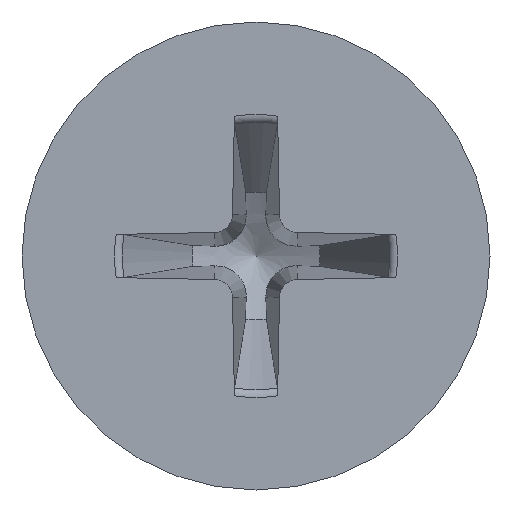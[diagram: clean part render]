
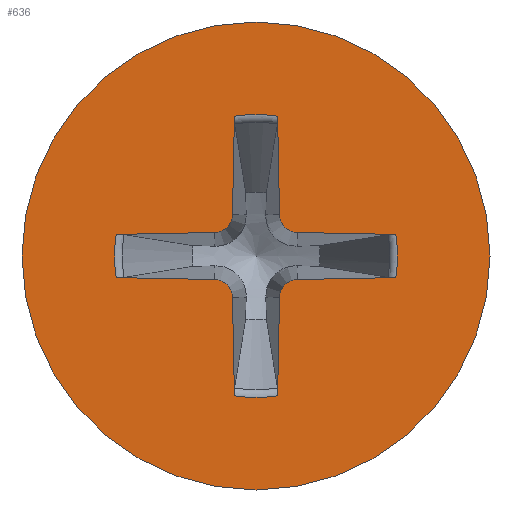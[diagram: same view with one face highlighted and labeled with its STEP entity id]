
A CAD part, left-side view. The second image highlights one B-rep face of the part: STEP entity #636.
In plain terms, the highlighted planar face has unit normal (-1, 0, 0).
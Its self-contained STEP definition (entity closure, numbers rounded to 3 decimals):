
#98=FACE_BOUND('',#193,.T.);
#133=PLANE('',#710);
#162=FACE_OUTER_BOUND('',#192,.T.);
#192=EDGE_LOOP('',(#563));
#193=EDGE_LOOP('',(#564,#565,#566,#567,#568,#569,#570,#571,#572,#573,#574,
#575,#576,#577,#578,#579));
#215=LINE('',#1127,#246);
#216=LINE('',#1132,#247);
#217=LINE('',#1137,#248);
#218=LINE('',#1142,#249);
#220=LINE('',#1163,#251);
#221=LINE('',#1168,#252);
#222=LINE('',#1173,#253);
#223=LINE('',#1178,#254);
#246=VECTOR('',#826,10.);
#247=VECTOR('',#829,10.);
#248=VECTOR('',#832,10.);
#249=VECTOR('',#835,10.);
#251=VECTOR('',#843,10.);
#252=VECTOR('',#846,10.);
#253=VECTOR('',#849,10.);
#254=VECTOR('',#852,10.);
#265=CIRCLE('',#670,1.663);
#268=CIRCLE('',#675,1.663);
#272=CIRCLE('',#681,1.663);
#275=CIRCLE('',#686,1.663);
#277=CIRCLE('',#690,0.215);
#278=CIRCLE('',#692,0.215);
#279=CIRCLE('',#694,0.215);
#280=CIRCLE('',#700,0.215);
#284=CIRCLE('',#711,2.75);
#310=VERTEX_POINT('',#937);
#313=VERTEX_POINT('',#949);
#316=VERTEX_POINT('',#966);
#319=VERTEX_POINT('',#978);
#323=VERTEX_POINT('',#997);
#326=VERTEX_POINT('',#1009);
#329=VERTEX_POINT('',#1026);
#332=VERTEX_POINT('',#1038);
#337=VERTEX_POINT('',#1071);
#338=VERTEX_POINT('',#1073);
#341=VERTEX_POINT('',#1093);
#342=VERTEX_POINT('',#1095);
#345=VERTEX_POINT('',#1115);
#346=VERTEX_POINT('',#1117);
#348=VERTEX_POINT('',#1125);
#350=VERTEX_POINT('',#1159);
#355=VERTEX_POINT('',#1194);
#368=EDGE_CURVE('',#313,#310,#265,.T.);
#375=EDGE_CURVE('',#319,#316,#268,.T.);
#383=EDGE_CURVE('',#326,#323,#272,.T.);
#390=EDGE_CURVE('',#332,#329,#275,.T.);
#396=EDGE_CURVE('',#338,#337,#277,.T.);
#400=EDGE_CURVE('',#342,#341,#278,.T.);
#404=EDGE_CURVE('',#346,#345,#279,.T.);
#408=EDGE_CURVE('',#332,#348,#215,.T.);
#410=EDGE_CURVE('',#326,#338,#216,.T.);
#412=EDGE_CURVE('',#313,#346,#217,.T.);
#414=EDGE_CURVE('',#319,#342,#218,.T.);
#417=EDGE_CURVE('',#348,#350,#280,.T.);
#418=EDGE_CURVE('',#323,#350,#220,.T.);
#420=EDGE_CURVE('',#316,#337,#221,.T.);
#422=EDGE_CURVE('',#329,#345,#222,.T.);
#424=EDGE_CURVE('',#310,#341,#223,.T.);
#431=EDGE_CURVE('',#355,#355,#284,.T.);
#563=ORIENTED_EDGE('',*,*,#431,.F.);
#564=ORIENTED_EDGE('',*,*,#412,.T.);
#565=ORIENTED_EDGE('',*,*,#404,.T.);
#566=ORIENTED_EDGE('',*,*,#422,.F.);
#567=ORIENTED_EDGE('',*,*,#390,.F.);
#568=ORIENTED_EDGE('',*,*,#408,.T.);
#569=ORIENTED_EDGE('',*,*,#417,.T.);
#570=ORIENTED_EDGE('',*,*,#418,.F.);
#571=ORIENTED_EDGE('',*,*,#383,.F.);
#572=ORIENTED_EDGE('',*,*,#410,.T.);
#573=ORIENTED_EDGE('',*,*,#396,.T.);
#574=ORIENTED_EDGE('',*,*,#420,.F.);
#575=ORIENTED_EDGE('',*,*,#375,.F.);
#576=ORIENTED_EDGE('',*,*,#414,.T.);
#577=ORIENTED_EDGE('',*,*,#400,.T.);
#578=ORIENTED_EDGE('',*,*,#424,.F.);
#579=ORIENTED_EDGE('',*,*,#368,.F.);
#636=ADVANCED_FACE('',(#162,#98),#133,.T.);
#670=AXIS2_PLACEMENT_3D('',#958,#759,#760);
#675=AXIS2_PLACEMENT_3D('',#987,#771,#772);
#681=AXIS2_PLACEMENT_3D('',#1018,#785,#786);
#686=AXIS2_PLACEMENT_3D('',#1047,#797,#798);
#690=AXIS2_PLACEMENT_3D('',#1074,#808,#809);
#692=AXIS2_PLACEMENT_3D('',#1096,#814,#815);
#694=AXIS2_PLACEMENT_3D('',#1118,#820,#821);
#700=AXIS2_PLACEMENT_3D('',#1161,#839,#840);
#710=AXIS2_PLACEMENT_3D('',#1193,#865,#866);
#711=AXIS2_PLACEMENT_3D('',#1195,#867,#868);
#759=DIRECTION('center_axis',(-1.,0.,0.));
#760=DIRECTION('ref_axis',(0.,0.,-1.));
#771=DIRECTION('center_axis',(-1.,0.,0.));
#772=DIRECTION('ref_axis',(0.,-1.,0.));
#785=DIRECTION('center_axis',(-1.,0.,0.));
#786=DIRECTION('ref_axis',(0.,0.,1.));
#797=DIRECTION('center_axis',(-1.,0.,0.));
#798=DIRECTION('ref_axis',(0.,1.,0.));
#808=DIRECTION('center_axis',(-1.,0.,0.));
#809=DIRECTION('ref_axis',(0.,1.,-0.02));
#814=DIRECTION('center_axis',(-1.,0.,0.));
#815=DIRECTION('ref_axis',(0.,0.02,1.));
#820=DIRECTION('center_axis',(-1.,0.,0.));
#821=DIRECTION('ref_axis',(0.,-1.,0.02));
#826=DIRECTION('',(0.,-1.,0.02));
#829=DIRECTION('',(0.,-0.02,-1.));
#832=DIRECTION('',(0.,0.02,1.));
#835=DIRECTION('',(0.,1.,-0.02));
#839=DIRECTION('center_axis',(-1.,0.,0.));
#840=DIRECTION('ref_axis',(0.,-0.02,-1.));
#843=DIRECTION('',(0.,0.02,-1.));
#846=DIRECTION('',(0.,1.,0.02));
#849=DIRECTION('',(0.,-1.,-0.02));
#852=DIRECTION('',(0.,-0.02,1.));
#865=DIRECTION('center_axis',(-1.,0.,0.));
#866=DIRECTION('ref_axis',(0.,0.,1.));
#867=DIRECTION('center_axis',(1.,0.,0.));
#868=DIRECTION('ref_axis',(0.,1.,0.));
#937=CARTESIAN_POINT('',(0.,-0.254,-1.644));
#949=CARTESIAN_POINT('',(0.,0.254,-1.644));
#958=CARTESIAN_POINT('Origin',(0.,0.,
0.));
#966=CARTESIAN_POINT('',(0.,-1.644,0.254));
#978=CARTESIAN_POINT('',(0.,-1.644,-0.254));
#987=CARTESIAN_POINT('Origin',(0.,0.,
0.));
#997=CARTESIAN_POINT('',(0.,0.254,1.644));
#1009=CARTESIAN_POINT('',(0.,-0.254,1.644));
#1018=CARTESIAN_POINT('Origin',(0.,0.,
0.));
#1026=CARTESIAN_POINT('',(0.,1.644,-0.254));
#1038=CARTESIAN_POINT('',(0.,1.644,0.254));
#1047=CARTESIAN_POINT('Origin',(0.,0.,
0.));
#1071=CARTESIAN_POINT('',(0.,-0.487,0.277));
#1073=CARTESIAN_POINT('',(0.,-0.277,0.487));
#1074=CARTESIAN_POINT('Origin',(0.,-0.491,
0.491));
#1093=CARTESIAN_POINT('',(0.,-0.277,-0.487));
#1095=CARTESIAN_POINT('',(0.,-0.487,-0.277));
#1096=CARTESIAN_POINT('Origin',(0.,-0.491,
-0.491));
#1115=CARTESIAN_POINT('',(0.,0.487,-0.277));
#1117=CARTESIAN_POINT('',(0.,0.277,-0.487));
#1118=CARTESIAN_POINT('Origin',(0.,0.491,
-0.491));
#1125=CARTESIAN_POINT('',(0.,0.487,0.277));
#1127=CARTESIAN_POINT('',(0.,1.58,0.255));
#1132=CARTESIAN_POINT('',(0.,-0.255,1.58));
#1137=CARTESIAN_POINT('',(0.,0.255,-1.58));
#1142=CARTESIAN_POINT('',(0.,-1.58,-0.255));
#1159=CARTESIAN_POINT('',(0.,0.277,0.487));
#1161=CARTESIAN_POINT('Origin',(0.,0.491,
0.491));
#1163=CARTESIAN_POINT('',(0.,0.282,0.225));
#1168=CARTESIAN_POINT('',(0.,0.841,0.303));
#1173=CARTESIAN_POINT('',(0.,1.333,-0.26));
#1178=CARTESIAN_POINT('',(0.,-0.281,-0.268));
#1193=CARTESIAN_POINT('Origin',(0.,2.175,0.));
#1194=CARTESIAN_POINT('',(0.,-2.75,0.));
#1195=CARTESIAN_POINT('Origin',(0.,0.,
0.));
